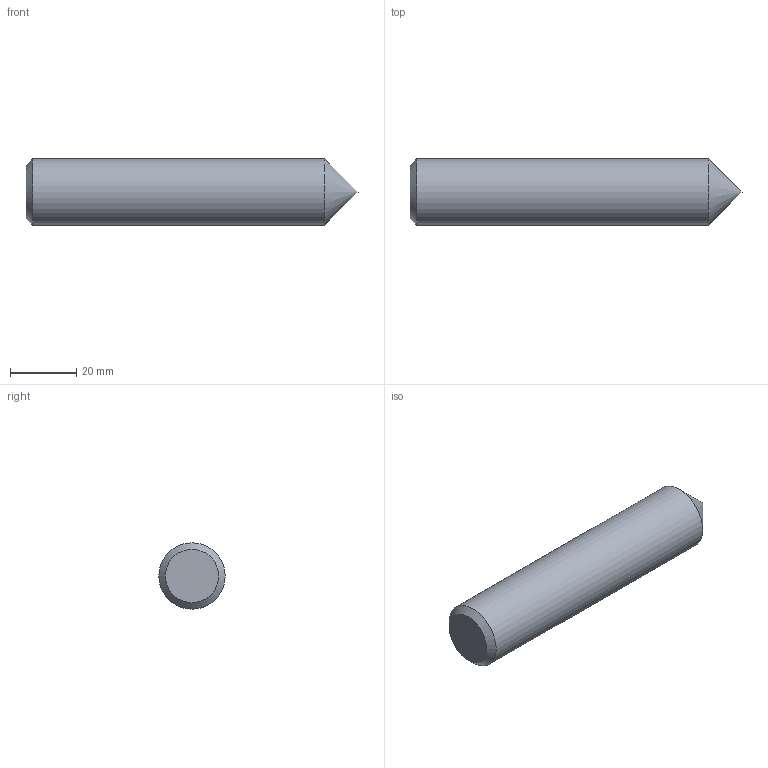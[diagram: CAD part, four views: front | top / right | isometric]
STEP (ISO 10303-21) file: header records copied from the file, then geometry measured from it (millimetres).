
FILE_DESCRIPTION (( 'STEP AP214' ), '1' );
FILE_NAME ('EG99941882.STEP', '2021-06-07T08:18:03', ( '' ), ( '' ), 'SwSTEP 2.0', 'SolidWorks 2014', '' );
FILE_SCHEMA (( 'AUTOMOTIVE_DESIGN' ));
Length unit declared in the file: millimetre
Products named in the file (1): EG99941882
Bounding box: 100 x 20 x 20 mm (x, y, z)
Volume: 29204.2 mm3; surface area: 6962.8 mm2
Topology: 2 solids, 2 shells, 6 faces, 8 edges, 5 vertices
Faces by surface type: plane 3, cone 2, cylinder 1
Full cylindrical faces by diameter (mm): 20 x1
Entity records: 191 total; most frequent: DIRECTION 22, CARTESIAN_POINT 15, AXIS2_PLACEMENT_3D 11, EDGE_LOOP 8, UNCERTAINTY_MEASURE_WITH_UNIT 8, ORIENTED_EDGE 8, FILL_AREA_STYLE_COLOUR 7, FACE_OUTER_BOUND 7
